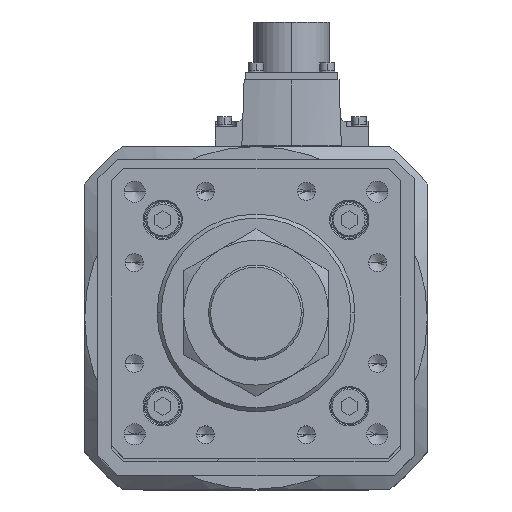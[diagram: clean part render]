
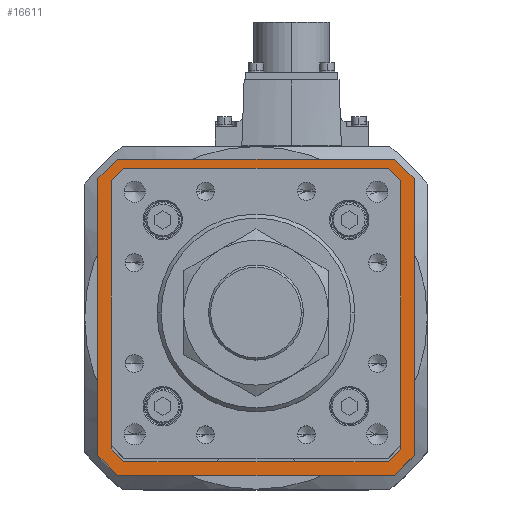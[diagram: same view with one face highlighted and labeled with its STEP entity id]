
A CAD part, top view. The second image highlights one B-rep face of the part: STEP entity #16611.
In plain terms, the highlighted planar face has unit normal (0, 0, 1).
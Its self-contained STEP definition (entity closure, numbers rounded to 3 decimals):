
#363 = VECTOR ( 'NONE', #2787, 1000. ) ;
#530 = VERTEX_POINT ( 'NONE', #23655 ) ;
#823 = EDGE_CURVE ( 'NONE', #7162, #5685, #2387, .T. ) ;
#1160 = CARTESIAN_POINT ( 'NONE',  ( -53.5, 49.593, -119. ) ) ;
#1167 = PLANE ( 'NONE',  #30192 ) ;
#1576 = LINE ( 'NONE', #4710, #3427 ) ;
#2097 = DIRECTION ( 'NONE',  ( 0., 1., 0. ) ) ;
#2173 = CARTESIAN_POINT ( 'NONE',  ( 53.5, -49.593, -119. ) ) ;
#2387 = LINE ( 'NONE', #19157, #9244 ) ;
#2421 = CARTESIAN_POINT ( 'NONE',  ( 60., 52.5, -119. ) ) ;
#2787 = DIRECTION ( 'NONE',  ( -0.707, 0.707, 0. ) ) ;
#2853 = CARTESIAN_POINT ( 'NONE',  ( 60., -52.5, -119. ) ) ;
#3000 = LINE ( 'NONE', #36209, #18517 ) ;
#3010 = CARTESIAN_POINT ( 'NONE',  ( 60., 52.5, -119. ) ) ;
#3109 = DIRECTION ( 'NONE',  ( 0., 1., 0. ) ) ;
#3427 = VECTOR ( 'NONE', #4322, 1000. ) ;
#3620 = CARTESIAN_POINT ( 'NONE',  ( 53.5, 49.593, -119. ) ) ;
#3750 = EDGE_CURVE ( 'NONE', #35074, #35203, #7275, .T. ) ;
#3883 = VECTOR ( 'NONE', #25961, 1000. ) ;
#4096 = EDGE_CURVE ( 'NONE', #10551, #9321, #11823, .T. ) ;
#4122 = CARTESIAN_POINT ( 'NONE',  ( 0., 0., -119. ) ) ;
#4201 = VECTOR ( 'NONE', #28947, 1000. ) ;
#4322 = DIRECTION ( 'NONE',  ( 0., -1., 0. ) ) ;
#4545 = ORIENTED_EDGE ( 'NONE', *, *, #5064, .T. ) ;
#4710 = CARTESIAN_POINT ( 'NONE',  ( 53.5, -49.8, -119. ) ) ;
#5064 = EDGE_CURVE ( 'NONE', #18520, #11294, #9178, .T. ) ;
#5685 = VERTEX_POINT ( 'NONE', #9973 ) ;
#5905 = ORIENTED_EDGE ( 'NONE', *, *, #34896, .F. ) ;
#6131 = VECTOR ( 'NONE', #26760, 1000. ) ;
#6689 = DIRECTION ( 'NONE',  ( 1., 0., 0. ) ) ;
#7058 = DIRECTION ( 'NONE',  ( 0.707, -0.707, 0. ) ) ;
#7162 = VERTEX_POINT ( 'NONE', #25562 ) ;
#7275 = LINE ( 'NONE', #17641, #23205 ) ;
#7349 = VERTEX_POINT ( 'NONE', #3010 ) ;
#7520 = ORIENTED_EDGE ( 'NONE', *, *, #24598, .F. ) ;
#7635 = CARTESIAN_POINT ( 'NONE',  ( -49.593, -53.5, -119. ) ) ;
#8073 = CARTESIAN_POINT ( 'NONE',  ( -53.5, -49.593, -119. ) ) ;
#9081 = EDGE_CURVE ( 'NONE', #26502, #530, #33840, .T. ) ;
#9178 = LINE ( 'NONE', #37517, #4201 ) ;
#9244 = VECTOR ( 'NONE', #22170, 1000. ) ;
#9321 = VERTEX_POINT ( 'NONE', #20970 ) ;
#9538 = CARTESIAN_POINT ( 'NONE',  ( 52.5, 60., -119. ) ) ;
#9734 = DIRECTION ( 'NONE',  ( 0., 0., 1. ) ) ;
#9973 = CARTESIAN_POINT ( 'NONE',  ( -52.5, 60., -119. ) ) ;
#10107 = CARTESIAN_POINT ( 'NONE',  ( 60., 52.5, -119. ) ) ;
#10222 = LINE ( 'NONE', #10107, #24337 ) ;
#10262 = EDGE_LOOP ( 'NONE', ( #17693, #27040, #5905, #22083, #37347, #15229, #14139, #7520 ) ) ;
#10551 = VERTEX_POINT ( 'NONE', #2173 ) ;
#11294 = VERTEX_POINT ( 'NONE', #8073 ) ;
#11527 = EDGE_CURVE ( 'NONE', #5685, #21977, #32681, .T. ) ;
#11823 = LINE ( 'NONE', #19394, #29078 ) ;
#12114 = ORIENTED_EDGE ( 'NONE', *, *, #24482, .T. ) ;
#12726 = CARTESIAN_POINT ( 'NONE',  ( -60., -52.5, -119. ) ) ;
#13030 = VERTEX_POINT ( 'NONE', #1160 ) ;
#13615 = VECTOR ( 'NONE', #26989, 1000. ) ;
#13742 = EDGE_CURVE ( 'NONE', #33051, #10551, #1576, .T. ) ;
#14139 = ORIENTED_EDGE ( 'NONE', *, *, #27013, .F. ) ;
#14402 = CARTESIAN_POINT ( 'NONE',  ( -52.5, -60., -119. ) ) ;
#14473 = LINE ( 'NONE', #15169, #24935 ) ;
#14543 = ORIENTED_EDGE ( 'NONE', *, *, #15113, .T. ) ;
#14928 = VERTEX_POINT ( 'NONE', #12726 ) ;
#15113 = EDGE_CURVE ( 'NONE', #11294, #13030, #21063, .T. ) ;
#15169 = CARTESIAN_POINT ( 'NONE',  ( -49.446, 53.646, -119. ) ) ;
#15229 = ORIENTED_EDGE ( 'NONE', *, *, #9081, .F. ) ;
#15236 = VECTOR ( 'NONE', #23046, 1000. ) ;
#15806 = DIRECTION ( 'NONE',  ( -1., 0., 0. ) ) ;
#16552 = CARTESIAN_POINT ( 'NONE',  ( 60., -52.5, -119. ) ) ;
#16610 = VECTOR ( 'NONE', #3109, 1000. ) ;
#16611 = ADVANCED_FACE ( 'NONE', ( #33682, #36372 ), #1167, .T. ) ;
#16665 = ORIENTED_EDGE ( 'NONE', *, *, #4096, .T. ) ;
#16863 = CARTESIAN_POINT ( 'NONE',  ( 49.593, 53.5, -119. ) ) ;
#17641 = CARTESIAN_POINT ( 'NONE',  ( 49.8, 53.5, -119. ) ) ;
#17693 = ORIENTED_EDGE ( 'NONE', *, *, #11527, .F. ) ;
#18517 = VECTOR ( 'NONE', #15806, 1000. ) ;
#18520 = VERTEX_POINT ( 'NONE', #7635 ) ;
#18636 = LINE ( 'NONE', #14402, #363 ) ;
#19087 = ORIENTED_EDGE ( 'NONE', *, *, #28567, .T. ) ;
#19157 = CARTESIAN_POINT ( 'NONE',  ( -52.5, 60., -119. ) ) ;
#19394 = CARTESIAN_POINT ( 'NONE',  ( 49.446, -53.646, -119. ) ) ;
#19434 = EDGE_CURVE ( 'NONE', #32976, #14928, #18636, .T. ) ;
#20354 = CARTESIAN_POINT ( 'NONE',  ( -49.8, -53.5, -119. ) ) ;
#20689 = EDGE_CURVE ( 'NONE', #530, #32976, #3000, .T. ) ;
#20970 = CARTESIAN_POINT ( 'NONE',  ( 49.593, -53.5, -119. ) ) ;
#21063 = LINE ( 'NONE', #22094, #29687 ) ;
#21099 = LINE ( 'NONE', #31618, #16610 ) ;
#21977 = VERTEX_POINT ( 'NONE', #9538 ) ;
#22083 = ORIENTED_EDGE ( 'NONE', *, *, #19434, .F. ) ;
#22094 = CARTESIAN_POINT ( 'NONE',  ( -53.5, 49.8, -119. ) ) ;
#22170 = DIRECTION ( 'NONE',  ( 0.707, 0.707, 0. ) ) ;
#22564 = DIRECTION ( 'NONE',  ( -0.707, -0.707, 0. ) ) ;
#23046 = DIRECTION ( 'NONE',  ( -0.707, -0.707, 0. ) ) ;
#23205 = VECTOR ( 'NONE', #32591, 1000. ) ;
#23228 = VECTOR ( 'NONE', #31560, 1000. ) ;
#23349 = ORIENTED_EDGE ( 'NONE', *, *, #3750, .T. ) ;
#23655 = CARTESIAN_POINT ( 'NONE',  ( 52.5, -60., -119. ) ) ;
#23840 = CARTESIAN_POINT ( 'NONE',  ( 53.646, 49.446, -119. ) ) ;
#24058 = DIRECTION ( 'NONE',  ( 0.707, 0.707, 0. ) ) ;
#24081 = CARTESIAN_POINT ( 'NONE',  ( 52.5, 60., -119. ) ) ;
#24233 = CARTESIAN_POINT ( 'NONE',  ( -52.5, -60., -119. ) ) ;
#24337 = VECTOR ( 'NONE', #7058, 1000. ) ;
#24482 = EDGE_CURVE ( 'NONE', #35203, #33051, #29323, .T. ) ;
#24598 = EDGE_CURVE ( 'NONE', #21977, #7349, #10222, .T. ) ;
#24935 = VECTOR ( 'NONE', #24058, 1000. ) ;
#25562 = CARTESIAN_POINT ( 'NONE',  ( -60., 52.5, -119. ) ) ;
#25961 = DIRECTION ( 'NONE',  ( -1., 0., 0. ) ) ;
#26502 = VERTEX_POINT ( 'NONE', #2853 ) ;
#26760 = DIRECTION ( 'NONE',  ( 0.707, -0.707, 0. ) ) ;
#26989 = DIRECTION ( 'NONE',  ( 1., 0., 0. ) ) ;
#27013 = EDGE_CURVE ( 'NONE', #7349, #26502, #30937, .T. ) ;
#27040 = ORIENTED_EDGE ( 'NONE', *, *, #823, .F. ) ;
#27242 = ORIENTED_EDGE ( 'NONE', *, *, #13742, .T. ) ;
#28567 = EDGE_CURVE ( 'NONE', #13030, #35074, #14473, .T. ) ;
#28947 = DIRECTION ( 'NONE',  ( -0.707, 0.707, 0. ) ) ;
#29078 = VECTOR ( 'NONE', #22564, 1000. ) ;
#29323 = LINE ( 'NONE', #23840, #6131 ) ;
#29687 = VECTOR ( 'NONE', #2097, 1000. ) ;
#30192 = AXIS2_PLACEMENT_3D ( 'NONE', #4122, #9734, #6689 ) ;
#30937 = LINE ( 'NONE', #2421, #23228 ) ;
#31560 = DIRECTION ( 'NONE',  ( 0., -1., 0. ) ) ;
#31618 = CARTESIAN_POINT ( 'NONE',  ( -60., 52.5, -119. ) ) ;
#32591 = DIRECTION ( 'NONE',  ( 1., 0., 0. ) ) ;
#32681 = LINE ( 'NONE', #24081, #13615 ) ;
#32976 = VERTEX_POINT ( 'NONE', #24233 ) ;
#33051 = VERTEX_POINT ( 'NONE', #3620 ) ;
#33682 = FACE_BOUND ( 'NONE', #36177, .T. ) ;
#33840 = LINE ( 'NONE', #16552, #15236 ) ;
#34437 = EDGE_CURVE ( 'NONE', #9321, #18520, #34792, .T. ) ;
#34792 = LINE ( 'NONE', #20354, #3883 ) ;
#34896 = EDGE_CURVE ( 'NONE', #14928, #7162, #21099, .T. ) ;
#35074 = VERTEX_POINT ( 'NONE', #36593 ) ;
#35203 = VERTEX_POINT ( 'NONE', #16863 ) ;
#36177 = EDGE_LOOP ( 'NONE', ( #23349, #12114, #27242, #16665, #37593, #4545, #14543, #19087 ) ) ;
#36209 = CARTESIAN_POINT ( 'NONE',  ( 52.5, -60., -119. ) ) ;
#36372 = FACE_OUTER_BOUND ( 'NONE', #10262, .T. ) ;
#36593 = CARTESIAN_POINT ( 'NONE',  ( -49.593, 53.5, -119. ) ) ;
#37347 = ORIENTED_EDGE ( 'NONE', *, *, #20689, .F. ) ;
#37517 = CARTESIAN_POINT ( 'NONE',  ( -53.646, -49.446, -119. ) ) ;
#37593 = ORIENTED_EDGE ( 'NONE', *, *, #34437, .T. ) ;
